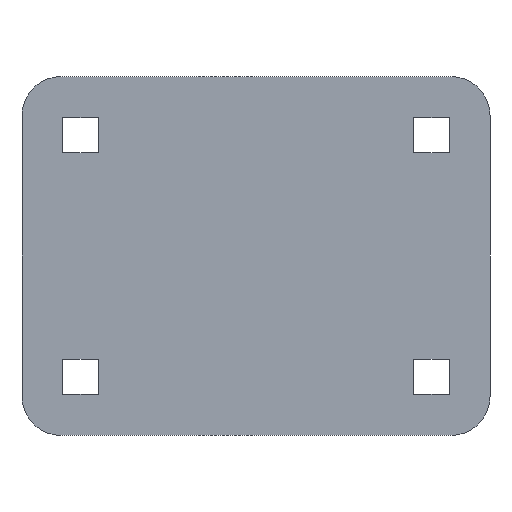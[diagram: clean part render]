
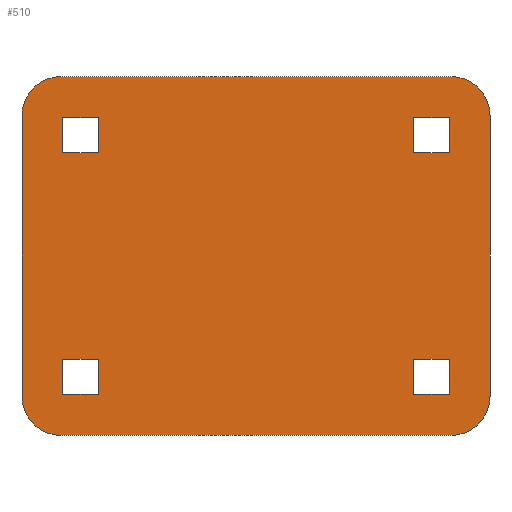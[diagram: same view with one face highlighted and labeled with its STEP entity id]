
A CAD part, front view. The second image highlights one B-rep face of the part: STEP entity #510.
In plain terms, the highlighted planar face has unit normal (0, -1, 0).
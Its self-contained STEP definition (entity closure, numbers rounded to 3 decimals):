
#15=FACE_BOUND('',#73,.T.);
#16=FACE_BOUND('',#74,.T.);
#17=FACE_BOUND('',#75,.T.);
#18=FACE_BOUND('',#76,.T.);
#23=PLANE('',#561);
#46=FACE_OUTER_BOUND('',#72,.T.);
#72=EDGE_LOOP('',(#365,#366,#367,#368,#369,#370,#371,#372));
#73=EDGE_LOOP('',(#373,#374,#375,#376));
#74=EDGE_LOOP('',(#377,#378,#379,#380));
#75=EDGE_LOOP('',(#381,#382,#383,#384));
#76=EDGE_LOOP('',(#385,#386,#387,#388));
#107=LINE('',#738,#171);
#108=LINE('',#742,#172);
#109=LINE('',#746,#173);
#110=LINE('',#749,#174);
#111=LINE('',#752,#175);
#112=LINE('',#754,#176);
#113=LINE('',#756,#177);
#114=LINE('',#757,#178);
#115=LINE('',#760,#179);
#116=LINE('',#762,#180);
#117=LINE('',#764,#181);
#118=LINE('',#765,#182);
#119=LINE('',#768,#183);
#120=LINE('',#770,#184);
#121=LINE('',#772,#185);
#122=LINE('',#773,#186);
#123=LINE('',#776,#187);
#124=LINE('',#778,#188);
#125=LINE('',#780,#189);
#126=LINE('',#781,#190);
#171=VECTOR('',#604,10.);
#172=VECTOR('',#607,10.);
#173=VECTOR('',#610,10.);
#174=VECTOR('',#613,10.);
#175=VECTOR('',#614,10.);
#176=VECTOR('',#615,10.);
#177=VECTOR('',#616,10.);
#178=VECTOR('',#617,10.);
#179=VECTOR('',#618,10.);
#180=VECTOR('',#619,10.);
#181=VECTOR('',#620,10.);
#182=VECTOR('',#621,10.);
#183=VECTOR('',#622,10.);
#184=VECTOR('',#623,10.);
#185=VECTOR('',#624,10.);
#186=VECTOR('',#625,10.);
#187=VECTOR('',#626,10.);
#188=VECTOR('',#627,10.);
#189=VECTOR('',#628,10.);
#190=VECTOR('',#629,10.);
#234=CIRCLE('',#560,10.);
#235=CIRCLE('',#562,10.);
#236=CIRCLE('',#563,10.);
#237=CIRCLE('',#564,10.);
#243=VERTEX_POINT('',#731);
#244=VERTEX_POINT('',#733);
#245=VERTEX_POINT('',#737);
#246=VERTEX_POINT('',#739);
#247=VERTEX_POINT('',#741);
#248=VERTEX_POINT('',#743);
#249=VERTEX_POINT('',#745);
#250=VERTEX_POINT('',#747);
#251=VERTEX_POINT('',#750);
#252=VERTEX_POINT('',#751);
#253=VERTEX_POINT('',#753);
#254=VERTEX_POINT('',#755);
#255=VERTEX_POINT('',#758);
#256=VERTEX_POINT('',#759);
#257=VERTEX_POINT('',#761);
#258=VERTEX_POINT('',#763);
#259=VERTEX_POINT('',#766);
#260=VERTEX_POINT('',#767);
#261=VERTEX_POINT('',#769);
#262=VERTEX_POINT('',#771);
#263=VERTEX_POINT('',#774);
#264=VERTEX_POINT('',#775);
#265=VERTEX_POINT('',#777);
#266=VERTEX_POINT('',#779);
#291=EDGE_CURVE('',#243,#244,#234,.T.);
#293=EDGE_CURVE('',#245,#243,#107,.T.);
#294=EDGE_CURVE('',#246,#245,#235,.T.);
#295=EDGE_CURVE('',#247,#246,#108,.T.);
#296=EDGE_CURVE('',#248,#247,#236,.T.);
#297=EDGE_CURVE('',#249,#248,#109,.T.);
#298=EDGE_CURVE('',#250,#249,#237,.T.);
#299=EDGE_CURVE('',#244,#250,#110,.T.);
#300=EDGE_CURVE('',#251,#252,#111,.T.);
#301=EDGE_CURVE('',#253,#251,#112,.T.);
#302=EDGE_CURVE('',#254,#253,#113,.T.);
#303=EDGE_CURVE('',#252,#254,#114,.T.);
#304=EDGE_CURVE('',#255,#256,#115,.T.);
#305=EDGE_CURVE('',#257,#255,#116,.T.);
#306=EDGE_CURVE('',#258,#257,#117,.T.);
#307=EDGE_CURVE('',#256,#258,#118,.T.);
#308=EDGE_CURVE('',#259,#260,#119,.T.);
#309=EDGE_CURVE('',#261,#259,#120,.T.);
#310=EDGE_CURVE('',#262,#261,#121,.T.);
#311=EDGE_CURVE('',#260,#262,#122,.T.);
#312=EDGE_CURVE('',#263,#264,#123,.T.);
#313=EDGE_CURVE('',#265,#263,#124,.T.);
#314=EDGE_CURVE('',#266,#265,#125,.T.);
#315=EDGE_CURVE('',#264,#266,#126,.T.);
#365=ORIENTED_EDGE('',*,*,#291,.F.);
#366=ORIENTED_EDGE('',*,*,#293,.F.);
#367=ORIENTED_EDGE('',*,*,#294,.F.);
#368=ORIENTED_EDGE('',*,*,#295,.F.);
#369=ORIENTED_EDGE('',*,*,#296,.F.);
#370=ORIENTED_EDGE('',*,*,#297,.F.);
#371=ORIENTED_EDGE('',*,*,#298,.F.);
#372=ORIENTED_EDGE('',*,*,#299,.F.);
#373=ORIENTED_EDGE('',*,*,#300,.F.);
#374=ORIENTED_EDGE('',*,*,#301,.F.);
#375=ORIENTED_EDGE('',*,*,#302,.F.);
#376=ORIENTED_EDGE('',*,*,#303,.F.);
#377=ORIENTED_EDGE('',*,*,#304,.F.);
#378=ORIENTED_EDGE('',*,*,#305,.F.);
#379=ORIENTED_EDGE('',*,*,#306,.F.);
#380=ORIENTED_EDGE('',*,*,#307,.F.);
#381=ORIENTED_EDGE('',*,*,#308,.F.);
#382=ORIENTED_EDGE('',*,*,#309,.F.);
#383=ORIENTED_EDGE('',*,*,#310,.F.);
#384=ORIENTED_EDGE('',*,*,#311,.F.);
#385=ORIENTED_EDGE('',*,*,#312,.F.);
#386=ORIENTED_EDGE('',*,*,#313,.F.);
#387=ORIENTED_EDGE('',*,*,#314,.F.);
#388=ORIENTED_EDGE('',*,*,#315,.F.);
#510=ADVANCED_FACE('',(#46,#15,#16,#17,#18),#23,.F.);
#560=AXIS2_PLACEMENT_3D('',#734,#599,#600);
#561=AXIS2_PLACEMENT_3D('',#736,#602,#603);
#562=AXIS2_PLACEMENT_3D('',#740,#605,#606);
#563=AXIS2_PLACEMENT_3D('',#744,#608,#609);
#564=AXIS2_PLACEMENT_3D('',#748,#611,#612);
#599=DIRECTION('center_axis',(0.,1.,0.));
#600=DIRECTION('ref_axis',(-0.707,0.,-0.707));
#602=DIRECTION('center_axis',(0.,1.,0.));
#603=DIRECTION('ref_axis',(0.,0.,1.));
#604=DIRECTION('',(-1.,0.,0.));
#605=DIRECTION('center_axis',(0.,1.,0.));
#606=DIRECTION('ref_axis',(0.707,0.,-0.707));
#607=DIRECTION('',(0.,0.,-1.));
#608=DIRECTION('center_axis',(0.,1.,0.));
#609=DIRECTION('ref_axis',(0.707,0.,0.707));
#610=DIRECTION('',(1.,0.,0.));
#611=DIRECTION('center_axis',(0.,1.,0.));
#612=DIRECTION('ref_axis',(-0.707,0.,0.707));
#613=DIRECTION('',(0.,0.,1.));
#614=DIRECTION('',(-1.,0.,0.));
#615=DIRECTION('',(0.,0.,1.));
#616=DIRECTION('',(1.,0.,0.));
#617=DIRECTION('',(0.,0.,-1.));
#618=DIRECTION('',(0.,0.,-1.));
#619=DIRECTION('',(-1.,0.,0.));
#620=DIRECTION('',(0.,0.,1.));
#621=DIRECTION('',(1.,0.,0.));
#622=DIRECTION('',(1.,0.,0.));
#623=DIRECTION('',(0.,0.,-1.));
#624=DIRECTION('',(-1.,0.,0.));
#625=DIRECTION('',(0.,0.,1.));
#626=DIRECTION('',(1.,0.,0.));
#627=DIRECTION('',(0.,0.,-1.));
#628=DIRECTION('',(-1.,0.,0.));
#629=DIRECTION('',(0.,0.,1.));
#731=CARTESIAN_POINT('',(-39.75,0.,-46.));
#733=CARTESIAN_POINT('',(-49.75,0.,-36.));
#734=CARTESIAN_POINT('Origin',(-39.75,0.,-36.));
#736=CARTESIAN_POINT('Origin',(10.25,0.,0.));
#737=CARTESIAN_POINT('',(60.25,0.,-46.));
#738=CARTESIAN_POINT('',(70.25,0.,-46.));
#739=CARTESIAN_POINT('',(70.25,0.,-36.));
#740=CARTESIAN_POINT('Origin',(60.25,0.,-36.));
#741=CARTESIAN_POINT('',(70.25,0.,36.));
#742=CARTESIAN_POINT('',(70.25,0.,46.));
#743=CARTESIAN_POINT('',(60.25,0.,46.));
#744=CARTESIAN_POINT('Origin',(60.25,0.,36.));
#745=CARTESIAN_POINT('',(-39.75,0.,46.));
#746=CARTESIAN_POINT('',(-49.75,0.,46.));
#747=CARTESIAN_POINT('',(-49.75,0.,36.));
#748=CARTESIAN_POINT('Origin',(-39.75,0.,36.));
#749=CARTESIAN_POINT('',(-49.75,0.,-46.));
#750=CARTESIAN_POINT('',(-30.25,0.,-26.5));
#751=CARTESIAN_POINT('',(-39.25,0.,-26.5));
#752=CARTESIAN_POINT('',(-30.25,0.,-26.5));
#753=CARTESIAN_POINT('',(-30.25,0.,-35.5));
#754=CARTESIAN_POINT('',(-30.25,0.,-35.5));
#755=CARTESIAN_POINT('',(-39.25,0.,-35.5));
#756=CARTESIAN_POINT('',(-39.25,0.,-35.5));
#757=CARTESIAN_POINT('',(-39.25,0.,-26.5));
#758=CARTESIAN_POINT('',(50.75,0.,-26.5));
#759=CARTESIAN_POINT('',(50.75,0.,-35.5));
#760=CARTESIAN_POINT('',(50.75,0.,-26.5));
#761=CARTESIAN_POINT('',(59.75,0.,-26.5));
#762=CARTESIAN_POINT('',(59.75,0.,-26.5));
#763=CARTESIAN_POINT('',(59.75,0.,-35.5));
#764=CARTESIAN_POINT('',(59.75,0.,-35.5));
#765=CARTESIAN_POINT('',(50.75,0.,-35.5));
#766=CARTESIAN_POINT('',(50.75,0.,26.5));
#767=CARTESIAN_POINT('',(59.75,0.,26.5));
#768=CARTESIAN_POINT('',(50.75,0.,26.5));
#769=CARTESIAN_POINT('',(50.75,0.,35.5));
#770=CARTESIAN_POINT('',(50.75,0.,35.5));
#771=CARTESIAN_POINT('',(59.75,0.,35.5));
#772=CARTESIAN_POINT('',(59.75,0.,35.5));
#773=CARTESIAN_POINT('',(59.75,0.,26.5));
#774=CARTESIAN_POINT('',(-39.25,0.,26.5));
#775=CARTESIAN_POINT('',(-30.25,0.,26.5));
#776=CARTESIAN_POINT('',(-39.25,0.,26.5));
#777=CARTESIAN_POINT('',(-39.25,0.,35.5));
#778=CARTESIAN_POINT('',(-39.25,0.,35.5));
#779=CARTESIAN_POINT('',(-30.25,0.,35.5));
#780=CARTESIAN_POINT('',(-30.25,0.,35.5));
#781=CARTESIAN_POINT('',(-30.25,0.,26.5));
